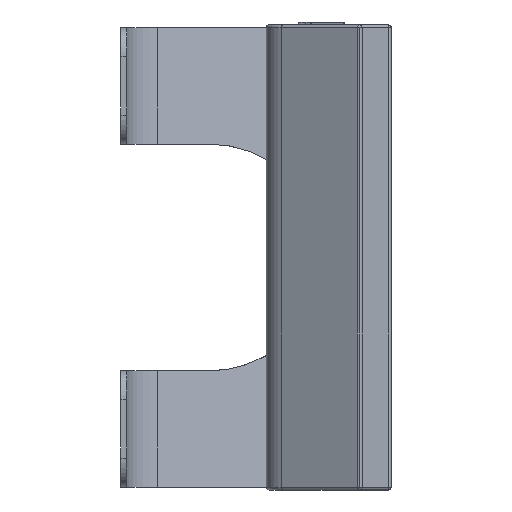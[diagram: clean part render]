
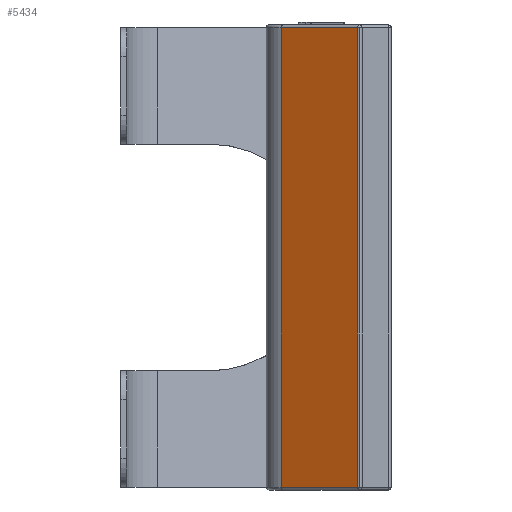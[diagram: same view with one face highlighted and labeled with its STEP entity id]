
A CAD part, left-side view. The second image highlights one B-rep face of the part: STEP entity #5434.
In plain terms, the highlighted planar face has unit normal (-0.88, 0.475, 0).
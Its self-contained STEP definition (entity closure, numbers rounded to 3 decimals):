
#594 = FACE_OUTER_BOUND ( 'NONE', #6884, .T. ) ;
#732 = VECTOR ( 'NONE', #5491, 1000. ) ;
#998 = VERTEX_POINT ( 'NONE', #6691 ) ;
#1630 = CARTESIAN_POINT ( 'NONE',  ( -5.8, 1.148, 8. ) ) ;
#2190 = DIRECTION ( 'NONE',  ( -0.476, -0.88, 0. ) ) ;
#2459 = ORIENTED_EDGE ( 'NONE', *, *, #6786, .T. ) ;
#2510 = AXIS2_PLACEMENT_3D ( 'NONE', #6969, #7638, #3763 ) ;
#2830 = CARTESIAN_POINT ( 'NONE',  ( -4.38, 3.776, 7.9 ) ) ;
#3173 = CARTESIAN_POINT ( 'NONE',  ( -4.38, 3.776, -7.9 ) ) ;
#3763 = DIRECTION ( 'NONE',  ( 0.476, 0.88, 0. ) ) ;
#3771 = EDGE_CURVE ( 'NONE', #998, #4973, #7218, .T. ) ;
#3830 = ORIENTED_EDGE ( 'NONE', *, *, #8237, .T. ) ;
#3987 = LINE ( 'NONE', #6677, #5702 ) ;
#4143 = VERTEX_POINT ( 'NONE', #4903 ) ;
#4903 = CARTESIAN_POINT ( 'NONE',  ( -4.38, 3.776, 7.9 ) ) ;
#4973 = VERTEX_POINT ( 'NONE', #5910 ) ;
#5074 = LINE ( 'NONE', #2830, #8337 ) ;
#5434 = ADVANCED_FACE ( 'NONE', ( #594 ), #8250, .F. ) ;
#5491 = DIRECTION ( 'NONE',  ( 0., 0., 1. ) ) ;
#5702 = VECTOR ( 'NONE', #2190, 1000. ) ;
#5910 = CARTESIAN_POINT ( 'NONE',  ( -5.8, 1.148, 7.9 ) ) ;
#6192 = EDGE_CURVE ( 'NONE', #4973, #4143, #5074, .T. ) ;
#6566 = ORIENTED_EDGE ( 'NONE', *, *, #6192, .T. ) ;
#6672 = DIRECTION ( 'NONE',  ( 0.476, 0.88, 0. ) ) ;
#6677 = CARTESIAN_POINT ( 'NONE',  ( -4.38, 3.776, -7.9 ) ) ;
#6691 = CARTESIAN_POINT ( 'NONE',  ( -5.8, 1.148, -7.9 ) ) ;
#6708 = VERTEX_POINT ( 'NONE', #3173 ) ;
#6768 = LINE ( 'NONE', #8382, #7687 ) ;
#6786 = EDGE_CURVE ( 'NONE', #4143, #6708, #6768, .T. ) ;
#6884 = EDGE_LOOP ( 'NONE', ( #2459, #3830, #7328, #6566 ) ) ;
#6969 = CARTESIAN_POINT ( 'NONE',  ( -4.38, 3.776, 8. ) ) ;
#7076 = DIRECTION ( 'NONE',  ( 0., 0., -1. ) ) ;
#7218 = LINE ( 'NONE', #1630, #732 ) ;
#7328 = ORIENTED_EDGE ( 'NONE', *, *, #3771, .T. ) ;
#7638 = DIRECTION ( 'NONE',  ( 0.88, -0.476, 0. ) ) ;
#7687 = VECTOR ( 'NONE', #7076, 1000. ) ;
#8237 = EDGE_CURVE ( 'NONE', #6708, #998, #3987, .T. ) ;
#8250 = PLANE ( 'NONE',  #2510 ) ;
#8337 = VECTOR ( 'NONE', #6672, 1000. ) ;
#8382 = CARTESIAN_POINT ( 'NONE',  ( -4.38, 3.776, 8. ) ) ;
